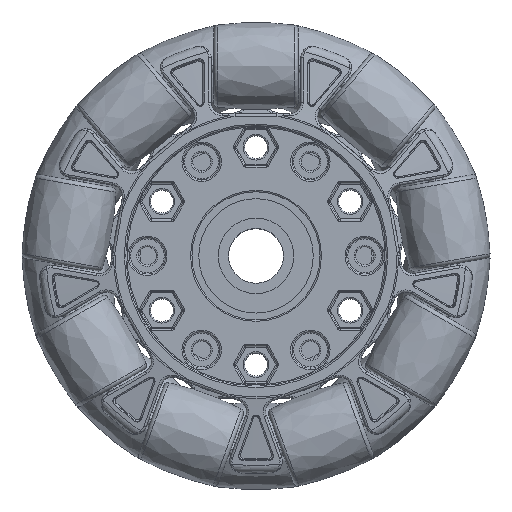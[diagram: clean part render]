
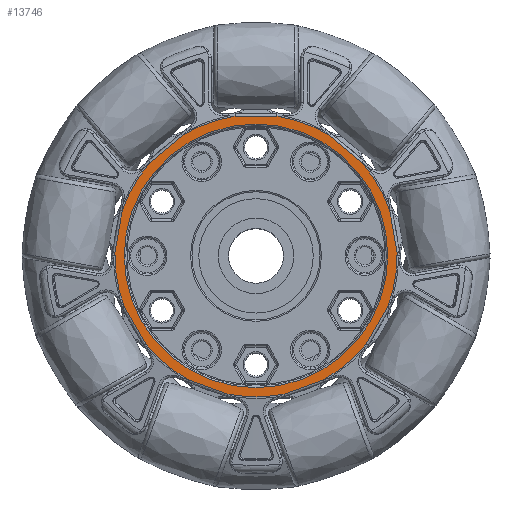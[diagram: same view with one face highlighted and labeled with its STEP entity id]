
A CAD part, top view. The second image highlights one B-rep face of the part: STEP entity #13746.
In plain terms, the highlighted planar face has unit normal (0, 0, 1) as drawn and (0, 0, -1) by its records, which use the part's own axes.
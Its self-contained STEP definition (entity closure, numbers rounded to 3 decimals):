
#2396=CARTESIAN_POINT('',(-23.118,20.417,
-16.001));
#2420=CARTESIAN_POINT('',(16.092,26.312,-16.001));
#2426=CARTESIAN_POINT('',(-4.585,30.5,-16.001));
#2450=CARTESIAN_POINT('',(0.,0.,-16.001));
#2451=DIRECTION('',(0.,0.,-1.));
#2452=DIRECTION('',(1.,0.025,0.));
#2453=AXIS2_PLACEMENT_3D('',#2450,#2451,#2452);
#2455=CARTESIAN_POINT('',(28.707,-11.279,
-16.001));
#2467=CARTESIAN_POINT('',(14.741,-27.092,
-16.001));
#2479=CARTESIAN_POINT('',(-6.123,-30.229,
-16.001));
#2491=CARTESIAN_POINT('',(-24.121,-19.221,
-16.001));
#2497=CARTESIAN_POINT('',(0.,0.,-16.001));
#2498=DIRECTION('',(0.,0.,-1.));
#2499=DIRECTION('',(-0.931,-0.366,0.));
#2500=AXIS2_PLACEMENT_3D('',#2497,#2498,#2499);
#2502=CARTESIAN_POINT('',(-30.833,0.78,
-16.001));
#2745=DIRECTION('',(-1.,0.,0.));
#2746=VECTOR('',#2745,9.171);
#2747=CARTESIAN_POINT('',(4.585,30.5,-16.001));
#2748=LINE('',#2747,#2746);
#2749=CARTESIAN_POINT('',(0.,0.,-16.001));
#2750=DIRECTION('',(0.,0.,1.));
#2751=DIRECTION('',(-0.149,0.989,0.));
#2752=AXIS2_PLACEMENT_3D('',#2749,#2750,#2751);
#2754=DIRECTION('',(-0.766,-0.643,0.));
#2755=VECTOR('',#2754,9.171);
#2756=CARTESIAN_POINT('',(-16.092,26.312,
-16.001));
#2757=LINE('',#2756,#2755);
#2758=CARTESIAN_POINT('',(0.,0.,-16.001));
#2759=DIRECTION('',(0.,0.,1.));
#2760=DIRECTION('',(-0.75,0.662,0.));
#2761=AXIS2_PLACEMENT_3D('',#2758,#2759,#2760);
#2763=DIRECTION('',(-0.174,-0.985,0.));
#2764=VECTOR('',#2763,9.171);
#2765=CARTESIAN_POINT('',(-29.24,9.812,
-16.001));
#2766=LINE('',#2765,#2764);
#2767=DIRECTION('',(0.5,-0.866,0.));
#2768=VECTOR('',#2767,9.171);
#2769=CARTESIAN_POINT('',(-28.707,-11.279,
-16.001));
#2770=LINE('',#2769,#2768);
#2771=CARTESIAN_POINT('',(0.,0.,-16.001));
#2772=DIRECTION('',(0.,0.,1.));
#2773=DIRECTION('',(-0.782,-0.623,0.));
#2774=AXIS2_PLACEMENT_3D('',#2771,#2772,#2773);
#2776=DIRECTION('',(0.94,-0.342,0.));
#2777=VECTOR('',#2776,9.171);
#2778=CARTESIAN_POINT('',(-14.741,-27.092,
-16.001));
#2779=LINE('',#2778,#2777);
#2780=CARTESIAN_POINT('',(0.,0.,-16.001));
#2781=DIRECTION('',(0.,0.,1.));
#2782=DIRECTION('',(-0.199,-0.98,0.));
#2783=AXIS2_PLACEMENT_3D('',#2780,#2781,#2782);
#2785=DIRECTION('',(0.94,0.342,0.));
#2786=VECTOR('',#2785,9.171);
#2787=CARTESIAN_POINT('',(6.123,-30.229,
-16.001));
#2788=LINE('',#2787,#2786);
#2789=CARTESIAN_POINT('',(0.,0.,-16.001));
#2790=DIRECTION('',(0.,0.,1.));
#2791=DIRECTION('',(0.478,-0.878,0.));
#2792=AXIS2_PLACEMENT_3D('',#2789,#2790,#2791);
#2794=DIRECTION('',(0.5,0.866,0.));
#2795=VECTOR('',#2794,9.171);
#2796=CARTESIAN_POINT('',(24.121,-19.221,
-16.001));
#2797=LINE('',#2796,#2795);
#2798=DIRECTION('',(-0.174,0.985,0.));
#2799=VECTOR('',#2798,9.171);
#2800=CARTESIAN_POINT('',(30.833,0.78,
-16.001));
#2801=LINE('',#2800,#2799);
#2802=CARTESIAN_POINT('',(0.,0.,-16.001));
#2803=DIRECTION('',(0.,0.,1.));
#2804=DIRECTION('',(0.948,0.318,0.));
#2805=AXIS2_PLACEMENT_3D('',#2802,#2803,#2804);
#2807=DIRECTION('',(-0.766,0.643,0.));
#2808=VECTOR('',#2807,9.171);
#2809=CARTESIAN_POINT('',(23.118,20.417,-16.001));
#2810=LINE('',#2809,#2808);
#2811=CARTESIAN_POINT('',(0.,0.,-16.001));
#2812=DIRECTION('',(0.,0.,1.));
#2813=DIRECTION('',(0.522,0.853,0.));
#2814=AXIS2_PLACEMENT_3D('',#2811,#2812,#2813);
#2816=CARTESIAN_POINT('',(0.,0.,-16.001));
#2817=DIRECTION('',(0.,0.,1.));
#2818=DIRECTION('',(-1.,0.,0.));
#2819=AXIS2_PLACEMENT_3D('',#2816,#2817,#2818);
#2821=CARTESIAN_POINT('',(0.,0.,-16.001));
#2822=DIRECTION('',(0.,0.,1.));
#2823=DIRECTION('',(1.,0.,0.));
#2824=AXIS2_PLACEMENT_3D('',#2821,#2822,#2823);
#9700=VERTEX_POINT('',#2426);
#9703=CARTESIAN_POINT('',(4.585,30.5,-16.001));
#9704=VERTEX_POINT('',#9703);
#9716=CARTESIAN_POINT('',(29.24,9.812,-16.001));
#9717=CARTESIAN_POINT('',(23.118,20.417,-16.001));
#9718=VERTEX_POINT('',#9716);
#9719=VERTEX_POINT('',#9717);
#9741=VERTEX_POINT('',#2420);
#9769=CARTESIAN_POINT('',(30.833,0.78,
-16.001));
#9770=VERTEX_POINT('',#9769);
#9796=VERTEX_POINT('',#2455);
#9799=CARTESIAN_POINT('',(24.121,-19.221,
-16.001));
#9800=VERTEX_POINT('',#9799);
#9824=VERTEX_POINT('',#2467);
#9827=CARTESIAN_POINT('',(6.123,-30.229,
-16.001));
#9828=VERTEX_POINT('',#9827);
#9852=VERTEX_POINT('',#2479);
#9855=CARTESIAN_POINT('',(-14.741,-27.092,
-16.001));
#9856=VERTEX_POINT('',#9855);
#9880=VERTEX_POINT('',#2491);
#9883=CARTESIAN_POINT('',(-28.707,-11.279,
-16.001));
#9884=VERTEX_POINT('',#9883);
#9910=VERTEX_POINT('',#2502);
#9913=CARTESIAN_POINT('',(-29.24,9.812,
-16.001));
#9914=VERTEX_POINT('',#9913);
#9938=VERTEX_POINT('',#2396);
#9941=CARTESIAN_POINT('',(-16.092,26.312,
-16.001));
#9942=VERTEX_POINT('',#9941);
#11051=CARTESIAN_POINT('',(-28.8,0.,-16.001));
#11052=CARTESIAN_POINT('',(28.8,0.,-16.001));
#11053=VERTEX_POINT('',#11051);
#11054=VERTEX_POINT('',#11052);
#13707=CARTESIAN_POINT('',(0.,0.,-16.001));
#13708=DIRECTION('',(0.,0.,-1.));
#13709=DIRECTION('',(1.,0.,0.));
#13710=AXIS2_PLACEMENT_3D('',#13707,#13708,#13709);
#13711=PLANE('',#13710);
#13713=ORIENTED_EDGE('',*,*,#13712,.T.);
#13714=ORIENTED_EDGE('',*,*,#12968,.T.);
#13716=ORIENTED_EDGE('',*,*,#13715,.T.);
#13717=ORIENTED_EDGE('',*,*,#12921,.T.);
#13718=ORIENTED_EDGE('',*,*,#13701,.T.);
#13719=ORIENTED_EDGE('',*,*,#13040,.F.);
#13721=ORIENTED_EDGE('',*,*,#13720,.T.);
#13722=ORIENTED_EDGE('',*,*,#13027,.T.);
#13724=ORIENTED_EDGE('',*,*,#13723,.T.);
#13725=ORIENTED_EDGE('',*,*,#13012,.T.);
#13727=ORIENTED_EDGE('',*,*,#13726,.T.);
#13728=ORIENTED_EDGE('',*,*,#12997,.T.);
#13730=ORIENTED_EDGE('',*,*,#13729,.T.);
#13731=ORIENTED_EDGE('',*,*,#12982,.F.);
#13733=ORIENTED_EDGE('',*,*,#13732,.T.);
#13734=ORIENTED_EDGE('',*,*,#12933,.T.);
#13736=ORIENTED_EDGE('',*,*,#13735,.T.);
#13737=ORIENTED_EDGE('',*,*,#12950,.T.);
#13738=EDGE_LOOP('',(#13713,#13714,#13716,#13717,#13718,#13719,#13721,#13722,
#13724,#13725,#13727,#13728,#13730,#13731,#13733,#13734,#13736,#13737));
#13739=FACE_OUTER_BOUND('',#13738,.F.);
#13741=ORIENTED_EDGE('',*,*,#13740,.F.);
#13743=ORIENTED_EDGE('',*,*,#13742,.F.);
#13744=EDGE_LOOP('',(#13741,#13743));
#13745=FACE_BOUND('',#13744,.F.);
#2454=CIRCLE('',#2453,30.843);
#2501=CIRCLE('',#2500,30.843);
#2753=CIRCLE('',#2752,30.843);
#2762=CIRCLE('',#2761,30.843);
#2775=CIRCLE('',#2774,30.843);
#2784=CIRCLE('',#2783,30.843);
#2793=CIRCLE('',#2792,30.843);
#2806=CIRCLE('',#2805,30.843);
#2815=CIRCLE('',#2814,30.843);
#2820=CIRCLE('',#2819,28.8);
#2825=CIRCLE('',#2824,28.8);
#12921=EDGE_CURVE('',#9938,#9914,#2762,.T.);
#12933=EDGE_CURVE('',#9718,#9719,#2806,.T.);
#12950=EDGE_CURVE('',#9741,#9704,#2815,.T.);
#12968=EDGE_CURVE('',#9700,#9942,#2753,.T.);
#12982=EDGE_CURVE('',#9770,#9796,#2454,.T.);
#12997=EDGE_CURVE('',#9824,#9800,#2793,.T.);
#13012=EDGE_CURVE('',#9852,#9828,#2784,.T.);
#13027=EDGE_CURVE('',#9880,#9856,#2775,.T.);
#13040=EDGE_CURVE('',#9884,#9910,#2501,.T.);
#13701=EDGE_CURVE('',#9914,#9910,#2766,.T.);
#13712=EDGE_CURVE('',#9704,#9700,#2748,.T.);
#13715=EDGE_CURVE('',#9942,#9938,#2757,.T.);
#13720=EDGE_CURVE('',#9884,#9880,#2770,.T.);
#13723=EDGE_CURVE('',#9856,#9852,#2779,.T.);
#13726=EDGE_CURVE('',#9828,#9824,#2788,.T.);
#13729=EDGE_CURVE('',#9800,#9796,#2797,.T.);
#13732=EDGE_CURVE('',#9770,#9718,#2801,.T.);
#13735=EDGE_CURVE('',#9719,#9741,#2810,.T.);
#13740=EDGE_CURVE('',#11053,#11054,#2820,.T.);
#13742=EDGE_CURVE('',#11054,#11053,#2825,.T.);
#13746=ADVANCED_FACE('',(#13739,#13745),#13711,.T.);
